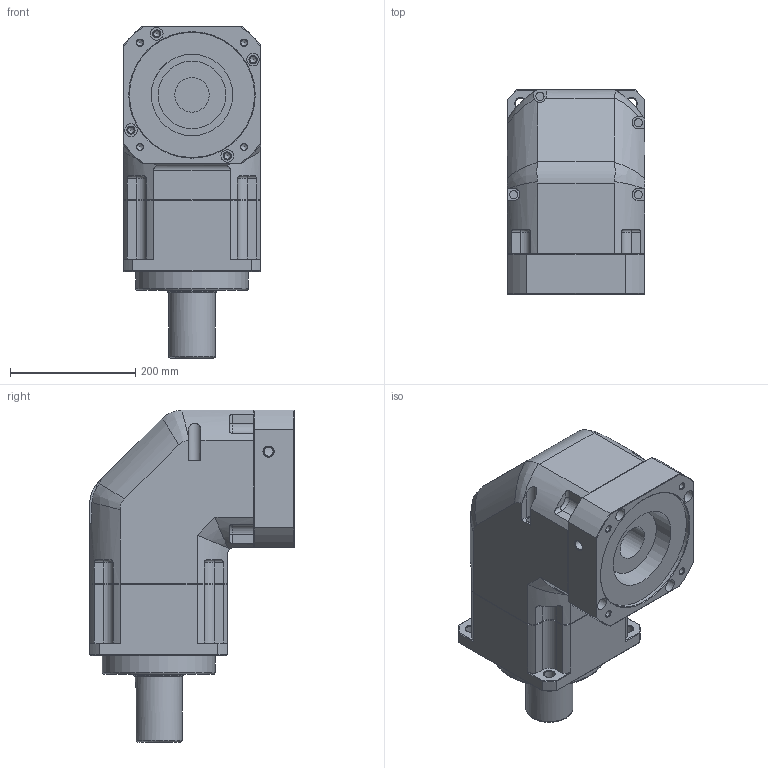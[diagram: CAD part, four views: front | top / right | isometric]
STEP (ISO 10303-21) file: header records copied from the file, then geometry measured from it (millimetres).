
FILE_DESCRIPTION((''),'2;1');
FILE_NAME('C:\Users\nagyu\Desktop\유성감속기-진행자료\도면\3D\2. 홈페이지용 3D 도면 (ipt)\외부도\SPL220\SPLH220 (1STAGE-KEY TYPE).stp','2012-07-23T11:33:13',('nagyu'),(''),'Autodesk Inventor 2012','Autodesk Inventor 2012','');
FILE_SCHEMA(('AUTOMOTIVE_DESIGN { 1 0 10303 214 1 1 1 1 }'));
Length unit declared in the file: millimetre
Products named in the file (2): SPL220 1단.iam (대체 세부 수준1); SPL220 1단_대체_1
Assembly tree (1 placements, depth 2):
  SPL220 1단.iam (대체 세부 수준1)
    SPL220 1단_대체_1
Bounding box: 220 x 326.5 x 530 mm (x, y, z)
Volume: 18005781.4 mm3; surface area: 876144.4 mm2
Topology: 3 solids, 3 shells, 333 faces, 817 edges, 513 vertices
Faces by surface type: plane 138, cylinder 120, cone 59, torus 12, bspline 4
Full cylindrical faces by diameter (mm): 10.106 x8, 13 x8, 14.5 x1, 16 x1, 17 x4, 17.294 x1, 19 x1, 20 x4, 22 x1, 23 x1, 23.1 x1, 55 x1, 75 x1, 79.7 x1, 79.8 x1, 108 x1, 130 x2, 140 x1, 144 x1, 150 x1, 170 x2, 180 x1, 190 x1, 200 x2
Entity records: 9997 total; most frequent: CARTESIAN_POINT 2312, DIRECTION 1564, ORIENTED_EDGE 1430, EDGE_CURVE 715, AXIS2_PLACEMENT_3D 630, VERTEX_POINT 492, EDGE_LOOP 465, FACE_OUTER_BOUND 333
